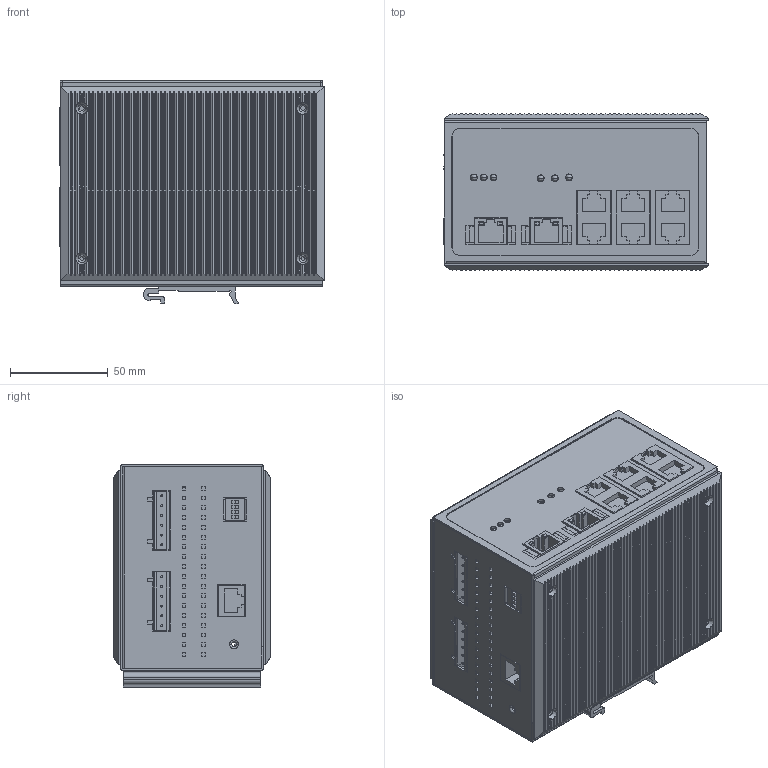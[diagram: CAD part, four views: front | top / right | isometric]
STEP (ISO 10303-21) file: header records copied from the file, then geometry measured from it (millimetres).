
FILE_DESCRIPTION((''),'2;1');
FILE_NAME('CU_MES-3980','2008-02-12T',('dcrowder'),(''),'PRO/ENGINEER BY PARAMETRIC TECHNOLOGY CORPORATION, 2006080','PRO/ENGINEER BY PARAMETRIC TECHNOLOGY CORPORATION, 2006080','');
FILE_SCHEMA(('CONFIG_CONTROL_DESIGN'));
Products named in the file (1): CU_MES-3980
Bounding box: 135.3 x 80.18 x 114 mm (x, y, z)
Volume: 194086.8 mm3; surface area: 265718.6 mm2
Topology: 4 solids, 10 shells, 2672 faces, 7030 edges, 4571 vertices
Faces by surface type: plane 1637, cylinder 897, torus 62, cone 48, bspline 28
Entity records: 83677 total; most frequent: CARTESIAN_POINT 17269, ORIENTED_EDGE 13998, DIRECTION 13050, EDGE_CURVE 7022, VECTOR 4826, LINE 4826, VERTEX_POINT 4571, AXIS2_PLACEMENT_3D 4112
